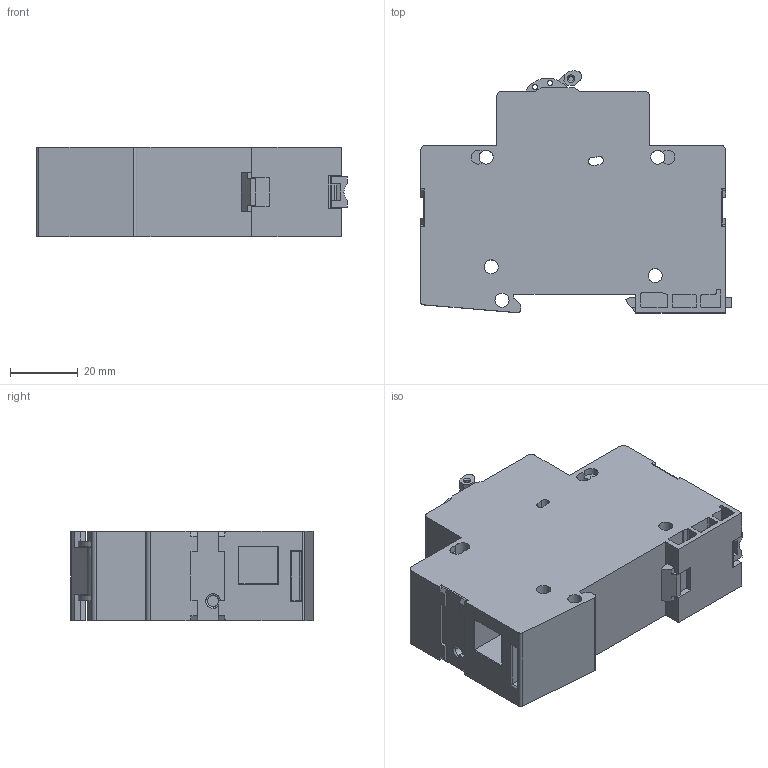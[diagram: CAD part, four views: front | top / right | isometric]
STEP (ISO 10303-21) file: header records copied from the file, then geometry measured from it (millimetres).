
FILE_DESCRIPTION (( 'STEP AP214' ), '1' );
FILE_NAME ('AST_1_zj_02.step', '2013-08-26T10:06:49', ( '' ), ( '' ), 'SwSTEP 2.0', 'SolidWorks 2011', '' );
FILE_SCHEMA (( 'AUTOMOTIVE_DESIGN' ));
Length unit declared in the file: millimetre
Products named in the file (1): AST_1_zj_02
Bounding box: 91.7 x 71.47 x 26.5 mm (x, y, z)
Volume: 122536.3 mm3; surface area: 25366.9 mm2
Topology: 1 solids, 3 shells, 463 faces, 1257 edges, 826 vertices
Faces by surface type: plane 274, cylinder 168, torus 7, bspline 6, cone 4, sphere 4
Entity records: 20664 total; most frequent: CARTESIAN_POINT 3703, ORIENTED_EDGE 2514, DIRECTION 2438, EDGE_CURVE 1257, VERTEX_POINT 826, LINE 822, VECTOR 822, AXIS2_PLACEMENT_3D 808
